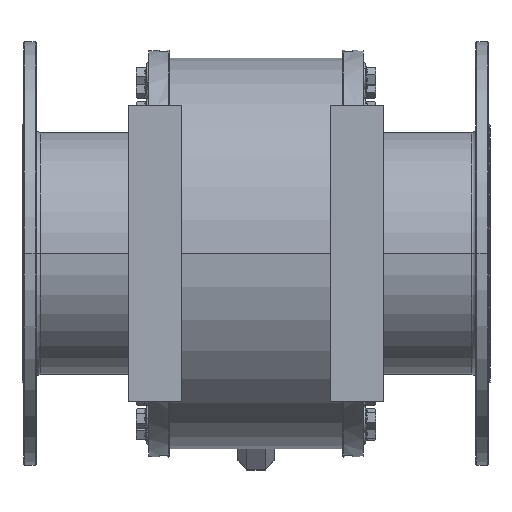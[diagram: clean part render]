
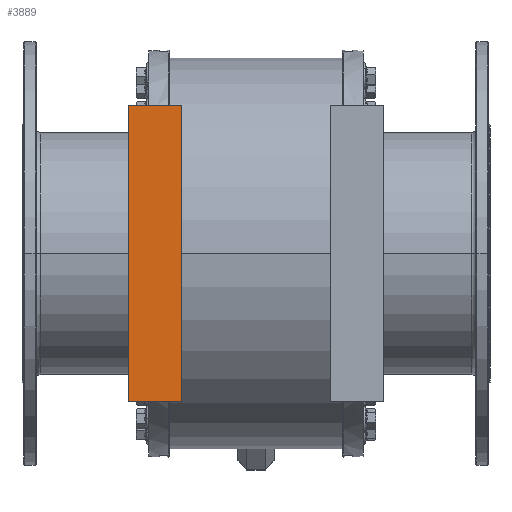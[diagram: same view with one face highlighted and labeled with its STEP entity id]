
A CAD part, front view. The second image highlights one B-rep face of the part: STEP entity #3889.
In plain terms, the highlighted planar face has unit normal (0, -1, 0).
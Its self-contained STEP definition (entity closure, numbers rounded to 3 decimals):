
#802 = VECTOR ( 'NONE', #11841, 1000. ) ;
#1067 = CARTESIAN_POINT ( 'NONE',  ( -155., -361., -180. ) ) ;
#1842 = LINE ( 'NONE', #8778, #6307 ) ;
#2160 = FACE_OUTER_BOUND ( 'NONE', #5253, .T. ) ;
#2910 = VERTEX_POINT ( 'NONE', #1067 ) ;
#3889 = ADVANCED_FACE ( 'NONE', ( #2160 ), #4277, .F. ) ;
#3980 = VERTEX_POINT ( 'NONE', #12452 ) ;
#4149 = EDGE_CURVE ( 'NONE', #2910, #5205, #1842, .T. ) ;
#4277 = PLANE ( 'NONE',  #12263 ) ;
#4342 = CARTESIAN_POINT ( 'NONE',  ( -130., -361., 0. ) ) ;
#4377 = CARTESIAN_POINT ( 'NONE',  ( -130., -361., -180. ) ) ;
#4496 = ORIENTED_EDGE ( 'NONE', *, *, #8162, .F. ) ;
#4632 = LINE ( 'NONE', #4377, #8808 ) ;
#4877 = EDGE_CURVE ( 'NONE', #2910, #5433, #4632, .T. ) ;
#4979 = DIRECTION ( 'NONE',  ( 1., 0., 0. ) ) ;
#5205 = VERTEX_POINT ( 'NONE', #8152 ) ;
#5253 = EDGE_LOOP ( 'NONE', ( #9849, #8674, #4496, #7270 ) ) ;
#5433 = VERTEX_POINT ( 'NONE', #9757 ) ;
#5803 = CARTESIAN_POINT ( 'NONE',  ( -90., -361., -180. ) ) ;
#6307 = VECTOR ( 'NONE', #11612, 1000. ) ;
#6848 = LINE ( 'NONE', #9800, #11042 ) ;
#7270 = ORIENTED_EDGE ( 'NONE', *, *, #4149, .F. ) ;
#8152 = CARTESIAN_POINT ( 'NONE',  ( -155., -361., 180. ) ) ;
#8162 = EDGE_CURVE ( 'NONE', #5205, #3980, #6848, .T. ) ;
#8299 = DIRECTION ( 'NONE',  ( 1., 0., 0. ) ) ;
#8510 = EDGE_CURVE ( 'NONE', #5433, #3980, #10872, .T. ) ;
#8674 = ORIENTED_EDGE ( 'NONE', *, *, #8510, .T. ) ;
#8778 = CARTESIAN_POINT ( 'NONE',  ( -155., -361., -180. ) ) ;
#8808 = VECTOR ( 'NONE', #8299, 1000. ) ;
#9306 = DIRECTION ( 'NONE',  ( 0., 0., 1. ) ) ;
#9757 = CARTESIAN_POINT ( 'NONE',  ( -90., -361., -180. ) ) ;
#9800 = CARTESIAN_POINT ( 'NONE',  ( -130., -361., 180. ) ) ;
#9849 = ORIENTED_EDGE ( 'NONE', *, *, #4877, .T. ) ;
#9996 = DIRECTION ( 'NONE',  ( 0., 1., 0. ) ) ;
#10872 = LINE ( 'NONE', #5803, #802 ) ;
#11042 = VECTOR ( 'NONE', #4979, 1000. ) ;
#11612 = DIRECTION ( 'NONE',  ( 0., 0., 1. ) ) ;
#11841 = DIRECTION ( 'NONE',  ( 0., 0., 1. ) ) ;
#12263 = AXIS2_PLACEMENT_3D ( 'NONE', #4342, #9996, #9306 ) ;
#12452 = CARTESIAN_POINT ( 'NONE',  ( -90., -361., 180. ) ) ;
